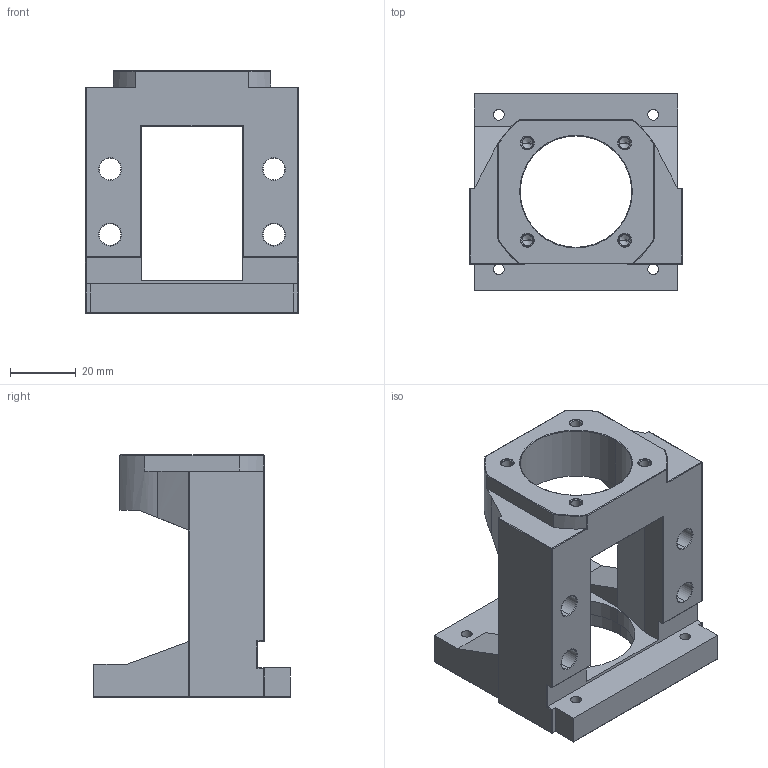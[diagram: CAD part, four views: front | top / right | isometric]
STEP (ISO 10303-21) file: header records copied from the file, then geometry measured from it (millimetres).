
FILE_DESCRIPTION (( 'STEP AP203' ), '1' );
FILE_NAME ('美式MBA10-C.STEP', '2017-12-28T05:56:01', ( '' ), ( '' ), 'SwSTEP 2.0', 'SolidWorks 2017', '' );
FILE_SCHEMA (( 'CONFIG_CONTROL_DESIGN' ));
Length unit declared in the file: millimetre
Products named in the file (1): 美式MBA10-C
Bounding box: 65 x 60 x 74 mm (x, y, z)
Volume: 83704.5 mm3; surface area: 25935.4 mm2
Topology: 1 solids, 1 shells, 192 faces, 467 edges, 266 vertices
Faces by surface type: cylinder 83, plane 43, torus 32, cone 24, sphere 10
Entity records: 5580 total; most frequent: CARTESIAN_POINT 1026, DIRECTION 1003, ORIENTED_EDGE 898, EDGE_CURVE 449, AXIS2_PLACEMENT_3D 395, VERTEX_POINT 266, EDGE_LOOP 221, VECTOR 213
